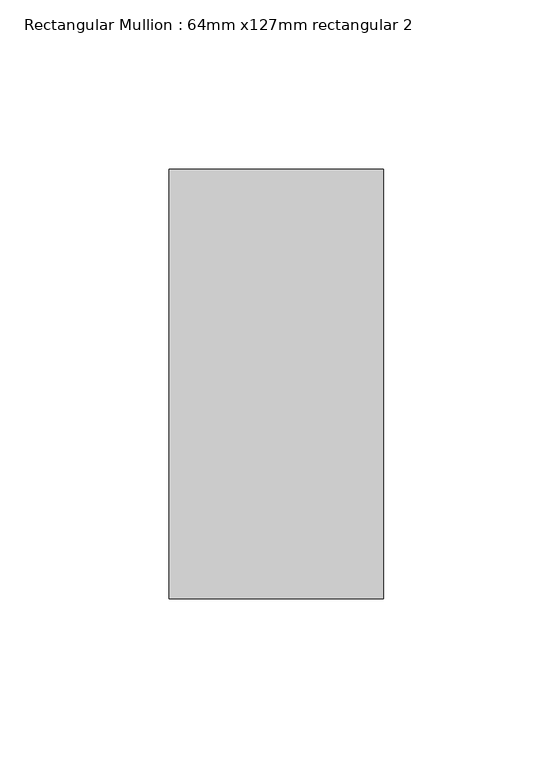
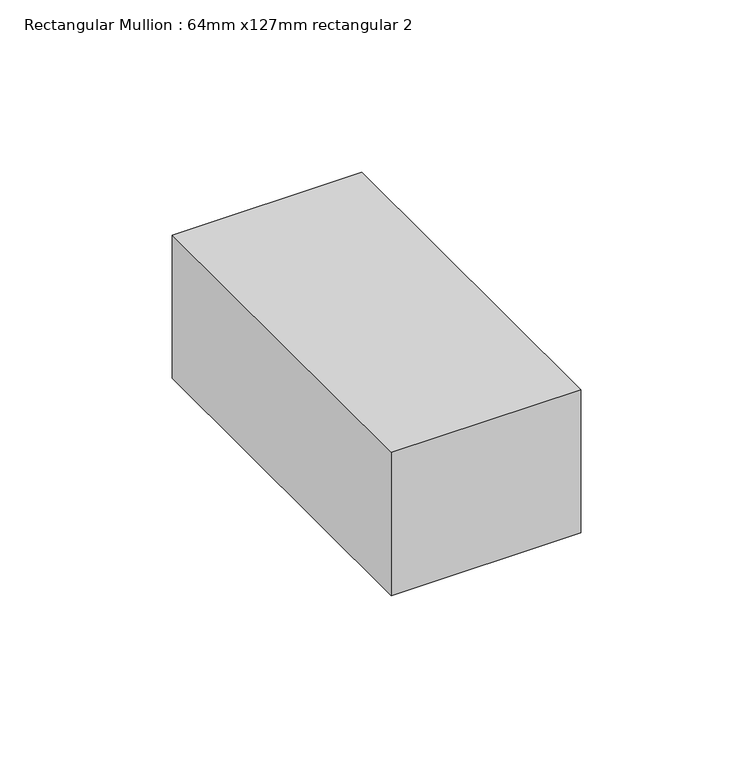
"""IFC4 building model written with IfcOpenShell, lengths in millimetres: member geometry, Rectangular Mullion : 64mm x127mm rectangular 2."""

from ifc_helpers import new_model, si_unit, frame, origin, place, context, project, spatial, polyline, outline, extrude, source, transform, mapped, element, save


def rectangular_mullion_64mm_x127mm_rectangular_2_06be906d(model_context):
    return source(origin(), model_context, "Body", "SweptSolid", [
        extrude(outline(polyline([(31.75, 63.5), (31.75, -63.5), (-31.75, -63.5), (-31.75, 63.5), (31.75, 63.5)])), frame((0.0, 0.0, -50.8), z_axis=(0.0, 0.0, 1.0), x_axis=(1.0, 0.0, 0.0)), (0.0, 0.0, 1.0), 50.8),
    ])


if __name__ == "__main__":
    model = new_model("IFC4")
    model_context = context("Model", 3, world=origin())
    ifc_project = project(units=[si_unit("LENGTHUNIT", "METRE", prefix="MILLI")], contexts=[model_context])
    site = spatial("IfcSite", under=ifc_project)
    building = spatial("IfcBuilding", under=site)
    placement = place(None, origin())
    rectangular_mullion_64mm_x127mm_rectangular_2_shape = rectangular_mullion_64mm_x127mm_rectangular_2_06be906d(model_context)
    element("IfcMember", 1, ObjectType="Rectangular Mullion : 64mm x127mm rectangular 2", at=placement, inside=building, context=model_context, shape_type="MappedRepresentation", body=[
        mapped(rectangular_mullion_64mm_x127mm_rectangular_2_shape, transform((0.0, 0.0, 0.0), x_axis=(1.0, 0.0, 0.0), y_axis=(0.0, 1.0, 0.0), z_axis=(0.0, 0.0, 1.0))),
    ])
    save(model, "model.ifc")
